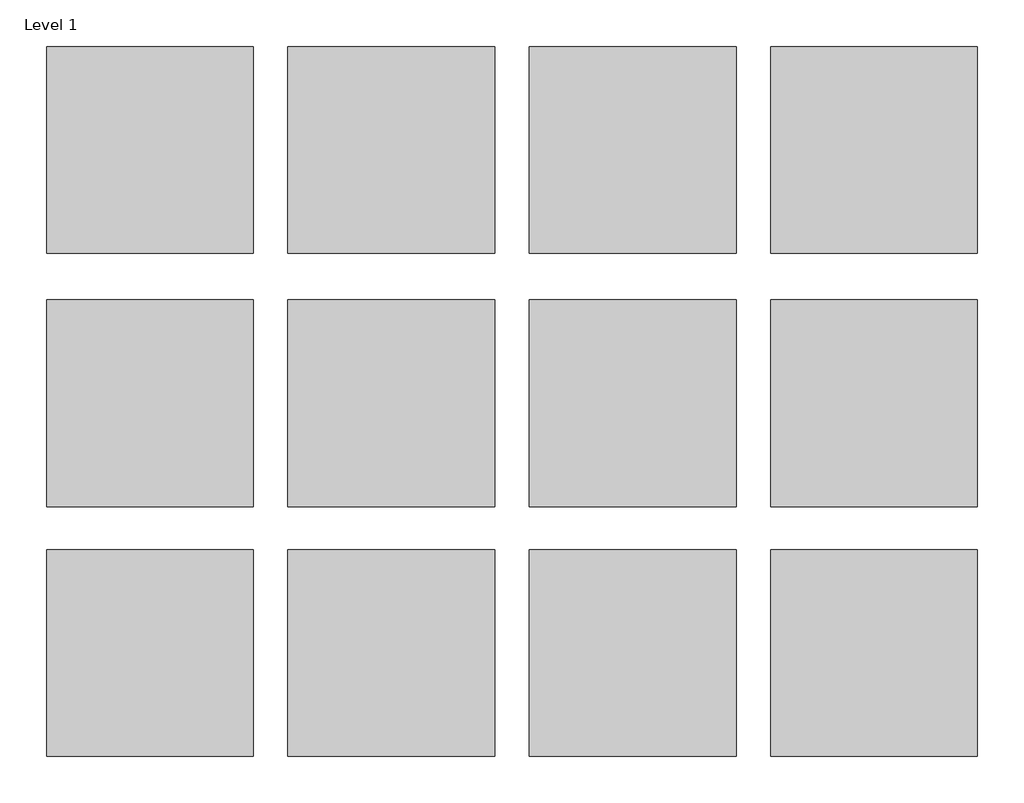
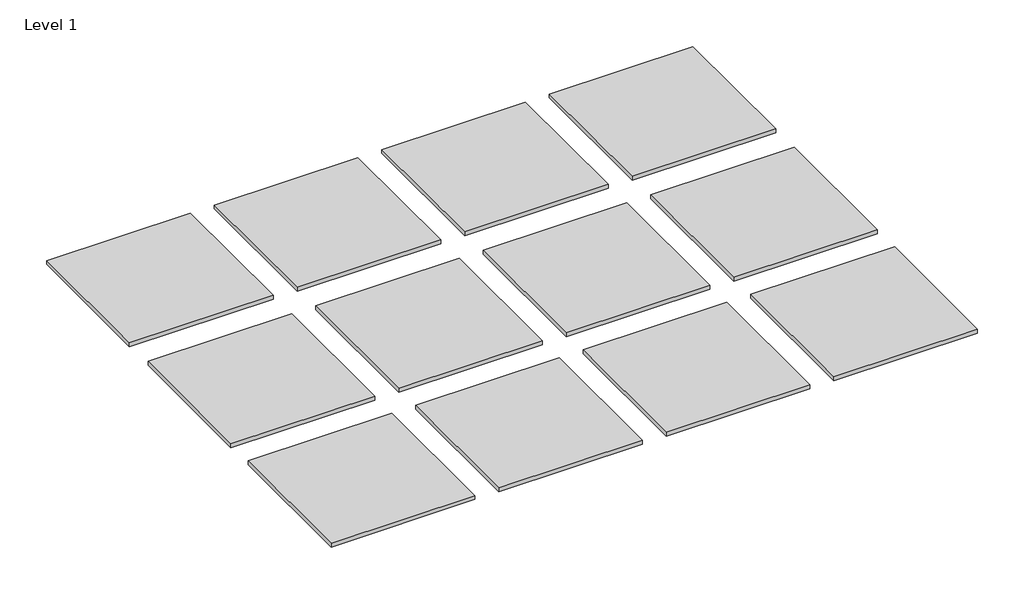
# One storey: 12 proxies.
"""IFC4 building model written with IfcOpenShell, lengths in millimetres."""

import ifcopenshell
import ifcopenshell.guid

model = None  # the IFC model being written
_history = None  # IfcOwnerHistory: only IFC2X3 demands one
_inside = {}  # id of a spatial element -> (the spatial element, [elements in it])
_under = {}  # id of a project, library or spatial element -> (it, [spatial elements below it])
_declared = {}  # id of a project -> (the project, [libraries it declares])
_typed = {}  # id of a type object -> (the type object, [elements of that type])
_made_of = {}  # id of a material, layer set ... -> (it, [elements and type objects made of it])


def new_model(schema):
    """Start an empty IFC model of exactly this schema.

    Asked for "IFC4X3", IfcOpenShell would pick the latest addendum, in which some entities
    have other attributes; the version numbers below select the first issue.
    IFC2X3 requires an IfcOwnerHistory on every rooted entity: one is made here for all.
    """
    global model, _history
    if schema == "IFC4X3":
        model = ifcopenshell.file(schema_version=(4, 3, 0, 0))
    else:
        model = ifcopenshell.file(schema=schema)
    _inside.clear()
    _under.clear()
    _declared.clear()
    _typed.clear()
    _made_of.clear()
    _history = None
    if model.schema == "IFC2X3":
        org = make("IfcOrganization", Name="unknown")
        user = make(
            "IfcPersonAndOrganization",
            ThePerson=make("IfcPerson", FamilyName="unknown"),
            TheOrganization=org,
        )
        app = make(
            "IfcApplication",
            ApplicationDeveloper=org,
            Version="unknown",
            ApplicationFullName="unknown",
            ApplicationIdentifier="unknown",
        )
        _history = make(
            "IfcOwnerHistory",
            OwningUser=user,
            OwningApplication=app,
            ChangeAction="ADDED",
            CreationDate=0,
        )
    return model


def make(cls, **values):
    """One entity of the class cls with the attributes given. An attribute that is None is left unset."""
    return model.create_entity(
        cls, **{name: value for name, value in values.items() if value is not None}
    )


def rooted(cls, **values):
    """An entity with a GlobalId (a new one), such as an element, a storey or a relation."""
    return make(cls, GlobalId=ifcopenshell.guid.new(), OwnerHistory=_history, **values)


def si_unit(unit_type, name, prefix=None):
    """IfcSIUnit, for example si_unit("LENGTHUNIT", "METRE", prefix="MILLI")."""
    return make("IfcSIUnit", UnitType=unit_type, Prefix=prefix, Name=name)


def assignment(units):
    """IfcUnitAssignment: the units of a project."""
    return None if units is None else make("IfcUnitAssignment", Units=units)


def point(xyz):
    """IfcCartesianPoint."""
    return None if xyz is None else make("IfcCartesianPoint", Coordinates=xyz)


def direction(xyz):
    """IfcDirection."""
    return None if xyz is None else make("IfcDirection", DirectionRatios=xyz)


def frame(location, z_axis=None, x_axis=None):
    """IfcAxis2Placement3D, a coordinate frame: its origin and axes. An axis left out is left unset."""
    return make(
        "IfcAxis2Placement3D",
        Location=point(location),
        Axis=direction(z_axis),
        RefDirection=direction(x_axis),
    )


def origin():
    """The frame at (0, 0, 0) with its axes left unset."""
    return frame((0.0, 0.0, 0.0))


def origin_with_axes():
    """The frame at (0, 0, 0) with the z axis (0, 0, 1) and the x axis (1, 0, 0) written out."""
    return frame((0.0, 0.0, 0.0), z_axis=(0.0, 0.0, 1.0), x_axis=(1.0, 0.0, 0.0))


def place(relative_to, where):
    """IfcLocalPlacement: puts the frame where relative to a parent placement (None: the world)."""
    return make(
        "IfcLocalPlacement", PlacementRelTo=relative_to, RelativePlacement=where
    )


def context(
    kind, dimensions, precision=None, world=None, true_north=None, identifier=None
):
    """IfcGeometricRepresentationContext, for example the 3D "Model" context."""
    return make(
        "IfcGeometricRepresentationContext",
        ContextIdentifier=identifier,
        ContextType=kind,
        CoordinateSpaceDimension=dimensions,
        Precision=precision,
        WorldCoordinateSystem=world,
        TrueNorth=true_north,
    )


def project(units=None, contexts=None):
    """IfcProject with its units and contexts."""
    return rooted(
        "IfcProject",
        Name="project",
        RepresentationContexts=contexts,
        UnitsInContext=assignment(units),
    )


def spatial(cls, under=None, at=None, **own):
    """A site, building, storey or space (cls), placed at a placement, below another one or the project."""
    s = rooted(cls, ObjectPlacement=at, **own)
    if under is not None:
        _under.setdefault(under.id(), (under, []))[1].append(s)
    return s


def polyline(points):
    """IfcPolyline through the points."""
    return make("IfcPolyline", Points=[point(p) for p in points])


def outline(outer, holes=None, kind="AREA"):
    """IfcArbitraryClosedProfileDef: a profile drawn as a closed curve; with holes, ...WithVoids."""
    if holes is None:
        return make("IfcArbitraryClosedProfileDef", ProfileType=kind, OuterCurve=outer)
    return make(
        "IfcArbitraryProfileDefWithVoids",
        ProfileType=kind,
        OuterCurve=outer,
        InnerCurves=holes,
    )


def extrude(swept, where, along, depth):
    """IfcExtrudedAreaSolid: the profile swept, set in the frame where, extruded along a direction by depth."""
    return make(
        "IfcExtrudedAreaSolid",
        SweptArea=swept,
        Position=where,
        ExtrudedDirection=direction(along),
        Depth=depth,
    )


def shape(context_of_items, identifier, shape_type, items):
    """IfcShapeRepresentation: the items that make up one representation, for example the "Body"."""
    return make(
        "IfcShapeRepresentation",
        ContextOfItems=context_of_items,
        RepresentationIdentifier=identifier,
        RepresentationType=shape_type,
        Items=items,
    )


def source(mapping_origin, context_of_items, identifier, shape_type, items):
    """IfcRepresentationMap: a shape defined once, which mapped items show again and again."""
    return make(
        "IfcRepresentationMap",
        MappingOrigin=mapping_origin,
        MappedRepresentation=shape(context_of_items, identifier, shape_type, items),
    )


def transform(
    local_origin,
    x_axis=None,
    y_axis=None,
    z_axis=None,
    scale=None,
    scale2=None,
    scale3=None,
    uniform=True,
):
    """IfcCartesianTransformationOperator3D, or its non-uniform kind. x_axis, y_axis, z_axis: its Axis1, 2, 3."""
    if uniform:
        return make(
            "IfcCartesianTransformationOperator3D",
            Axis1=direction(x_axis),
            Axis2=direction(y_axis),
            LocalOrigin=point(local_origin),
            Scale=scale,
            Axis3=direction(z_axis),
        )
    return make(
        "IfcCartesianTransformationOperator3DnonUniform",
        Axis1=direction(x_axis),
        Axis2=direction(y_axis),
        LocalOrigin=point(local_origin),
        Scale=scale,
        Axis3=direction(z_axis),
        Scale2=scale2,
        Scale3=scale3,
    )


def mapped(mapping_source, mapping_target):
    """IfcMappedItem: shows the shape of a source again, moved by a transform."""
    return make(
        "IfcMappedItem", MappingSource=mapping_source, MappingTarget=mapping_target
    )


def made_of(thing, what):
    """Note that an element or type object is made of a material, layer set ...; save() writes the relation."""
    if what is not None:
        _made_of.setdefault(what.id(), (what, []))[1].append(thing)
    return thing


def element(
    cls,
    number,
    at=None,
    inside=None,
    cuts=None,
    type_object=None,
    material=None,
    context=None,
    identifier="Body",
    shape_type=None,
    held_by="IfcProductDefinitionShape",
    body=None,
    shapes=None,
    **own,
):
    """One element of the class cls, such as IfcWall. Its Tag is "e" and its number.

    at: its placement. inside: the storey or other place that contains it. cuts: it is an
    opening in that element (IfcRelVoidsElement). A single representation is given by context,
    identifier, shape_type and body (its items); several are given by shapes. held_by: the class
    of the entity that holds the representations. save() writes the other relations.
    """
    e = rooted(cls, Tag="e%d" % number, ObjectPlacement=at, **own)
    if body is not None:
        shapes = [shape(context, identifier, shape_type, body)]
    if shapes is not None:
        e.Representation = make(held_by, Representations=shapes)
    if inside is not None:
        _inside.setdefault(inside.id(), (inside, []))[1].append(e)
    if cuts is not None:
        rooted(
            "IfcRelVoidsElement", RelatingBuildingElement=cuts, RelatedOpeningElement=e
        )
    if type_object is not None:
        _typed.setdefault(type_object.id(), (type_object, []))[1].append(e)
    return made_of(e, material)


def aggregate(whole, parts):
    """IfcRelAggregates: a whole, such as a stair, and the parts it consists of."""
    return rooted("IfcRelAggregates", RelatingObject=whole, RelatedObjects=parts)


def save(model, path):
    """Write the relations noted so far, then the file.

    IfcRelAggregates (storeys below a building ...), IfcRelContainedInSpatialStructure (elements
    in a storey), IfcRelDefinesByType, IfcRelAssociatesMaterial and IfcRelDeclares: one each for
    every whole, place, type object, material and project.
    """
    for whole, parts in _under.values():
        aggregate(whole, parts)
    for where, things in _inside.values():
        rooted(
            "IfcRelContainedInSpatialStructure",
            RelatedElements=things,
            RelatingStructure=where,
        )
    for kind, things in _typed.values():
        rooted("IfcRelDefinesByType", RelatedObjects=things, RelatingType=kind)
    for what, things in _made_of.values():
        rooted("IfcRelAssociatesMaterial", RelatedObjects=things, RelatingMaterial=what)
    for by, libraries in _declared.values():
        rooted("IfcRelDeclares", RelatingContext=by, RelatedDefinitions=libraries)
    model.write(path)


def materialsample_type_1_19775645(model_context):
    return source(origin(), model_context, "Body", "SweptSolid", [
        extrude(outline(polyline([(914.4, 0.0), (0.0, 0.0), (0.0, 914.4), (914.4, 914.4), (914.4, 0.0)])), origin_with_axes(), (0.0, 0.0, 1.0), 25.4),
    ])


model = new_model("IFC4")

# Units and contexts
model_context = context("Model", 3, world=origin())
ifc_project = project(units=[si_unit("LENGTHUNIT", "METRE", prefix="MILLI")], contexts=[model_context])

# Site, building, storey
site = spatial("IfcSite", under=ifc_project)
building = spatial("IfcBuilding", under=site)
storey = spatial("IfcBuildingStorey", under=building, Name="Level 1", Elevation=0.0)

# Proxies
placement = place(None, origin())
materialsample_type_1_shape = materialsample_type_1_19775645(model_context)
element("IfcBuildingElementProxy", 1, Name="MaterialSample : Type 1", ObjectType="MaterialSample : Type 1", at=placement, inside=storey, context=model_context, shape_type="MappedRepresentation", body=[
    mapped(materialsample_type_1_shape, transform((12801.6, 0.0, 0.0), x_axis=(1.0, 0.0, 0.0), y_axis=(0.0, 1.0, 0.0), z_axis=(0.0, 0.0, 1.0))),
])
element("IfcBuildingElementProxy", 2, Name="MaterialSample : Type 1", ObjectType="MaterialSample : Type 1", at=placement, inside=storey, context=model_context, shape_type="MappedRepresentation", body=[
    mapped(materialsample_type_1_shape, transform((13868.4, 0.0, 0.0), x_axis=(1.0, 0.0, 0.0), y_axis=(0.0, 1.0, 0.0), z_axis=(0.0, 0.0, 1.0))),
])
element("IfcBuildingElementProxy", 3, Name="MaterialSample : Type 1", ObjectType="MaterialSample : Type 1", at=placement, inside=storey, context=model_context, shape_type="MappedRepresentation", body=[
    mapped(materialsample_type_1_shape, transform((14935.2, 0.0, 0.0), x_axis=(1.0, 0.0, 0.0), y_axis=(0.0, 1.0, 0.0), z_axis=(0.0, 0.0, 1.0))),
])
element("IfcBuildingElementProxy", 4, Name="MaterialSample : Type 1", ObjectType="MaterialSample : Type 1", at=placement, inside=storey, context=model_context, shape_type="MappedRepresentation", body=[
    mapped(materialsample_type_1_shape, transform((11734.8, -1119.3671079, 0.0), x_axis=(1.0, 0.0, 0.0), y_axis=(0.0, 1.0, 0.0), z_axis=(0.0, 0.0, 1.0))),
])
element("IfcBuildingElementProxy", 5, Name="MaterialSample : Type 1", ObjectType="MaterialSample : Type 1", at=placement, inside=storey, context=model_context, shape_type="MappedRepresentation", body=[
    mapped(materialsample_type_1_shape, transform((12801.6, -1119.3671079, 0.0), x_axis=(1.0, 0.0, 0.0), y_axis=(0.0, 1.0, 0.0), z_axis=(0.0, 0.0, 1.0))),
])
element("IfcBuildingElementProxy", 6, Name="MaterialSample : Type 1", ObjectType="MaterialSample : Type 1", at=placement, inside=storey, context=model_context, shape_type="MappedRepresentation", body=[
    mapped(materialsample_type_1_shape, transform((13868.4, -1119.3671079, 0.0), x_axis=(1.0, 0.0, 0.0), y_axis=(0.0, 1.0, 0.0), z_axis=(0.0, 0.0, 1.0))),
])
element("IfcBuildingElementProxy", 7, Name="MaterialSample : Type 1", ObjectType="MaterialSample : Type 1", at=placement, inside=storey, context=model_context, shape_type="MappedRepresentation", body=[
    mapped(materialsample_type_1_shape, transform((14935.2, -1119.3671079, 0.0), x_axis=(1.0, 0.0, 0.0), y_axis=(0.0, 1.0, 0.0), z_axis=(0.0, 0.0, 1.0))),
])
element("IfcBuildingElementProxy", 8, Name="MaterialSample : Type 1", ObjectType="MaterialSample : Type 1", at=placement, inside=storey, context=model_context, shape_type="MappedRepresentation", body=[
    mapped(materialsample_type_1_shape, transform((11734.8, -2223.4004199, 0.0), x_axis=(1.0, 0.0, 0.0), y_axis=(0.0, 1.0, 0.0), z_axis=(0.0, 0.0, 1.0))),
])
element("IfcBuildingElementProxy", 9, Name="MaterialSample : Type 1", ObjectType="MaterialSample : Type 1", at=placement, inside=storey, context=model_context, shape_type="MappedRepresentation", body=[
    mapped(materialsample_type_1_shape, transform((12801.6, -2223.4004199, 0.0), x_axis=(1.0, 0.0, 0.0), y_axis=(0.0, 1.0, 0.0), z_axis=(0.0, 0.0, 1.0))),
])
element("IfcBuildingElementProxy", 10, Name="MaterialSample : Type 1", ObjectType="MaterialSample : Type 1", at=placement, inside=storey, context=model_context, shape_type="MappedRepresentation", body=[
    mapped(materialsample_type_1_shape, transform((11734.8, 0.0, 0.0), x_axis=(1.0, 0.0, 0.0), y_axis=(0.0, 1.0, 0.0), z_axis=(0.0, 0.0, 1.0))),
])
element("IfcBuildingElementProxy", 11, Name="MaterialSample : Type 1", ObjectType="MaterialSample : Type 1", at=placement, inside=storey, context=model_context, shape_type="MappedRepresentation", body=[
    mapped(materialsample_type_1_shape, transform((13868.4, -2223.4004199, 0.0), x_axis=(1.0, 0.0, 0.0), y_axis=(0.0, 1.0, 0.0), z_axis=(0.0, 0.0, 1.0))),
])
element("IfcBuildingElementProxy", 12, Name="MaterialSample : Type 1", ObjectType="MaterialSample : Type 1", at=placement, inside=storey, context=model_context, shape_type="MappedRepresentation", body=[
    mapped(materialsample_type_1_shape, transform((14935.2, -2223.4004199, 0.0), x_axis=(1.0, 0.0, 0.0), y_axis=(0.0, 1.0, 0.0), z_axis=(0.0, 0.0, 1.0))),
])

save(model, "model.ifc")
